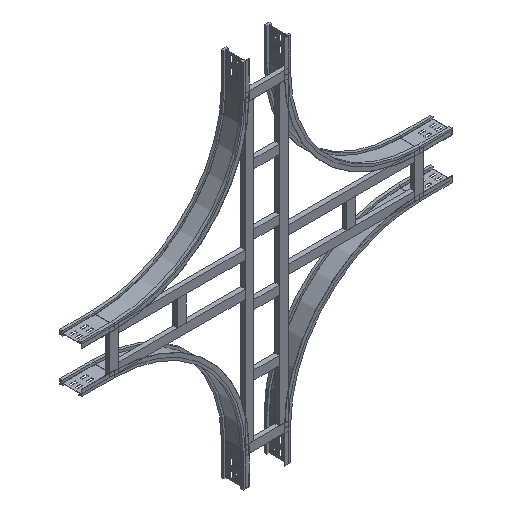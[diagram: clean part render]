
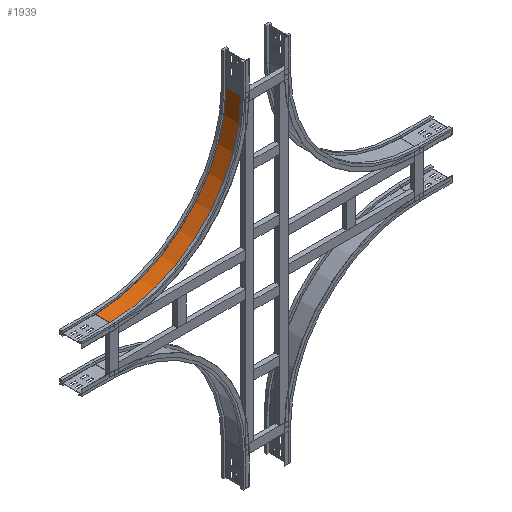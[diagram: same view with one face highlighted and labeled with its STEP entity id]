
A CAD part, isometric view. The second image highlights one B-rep face of the part: STEP entity #1939.
In plain terms, the highlighted cylindrical face has radius 600 mm (diameter 1200 mm), a partial arc.
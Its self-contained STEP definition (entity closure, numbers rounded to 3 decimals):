
#196 = EDGE_CURVE ( 'NONE', #1586, #690, #2395, .T. ) ;
#223 = VECTOR ( 'NONE', #2506, 1000. ) ;
#478 = CARTESIAN_POINT ( 'NONE',  ( 591., 12., -750. ) ) ;
#588 = CIRCLE ( 'NONE', #643, 600. ) ;
#643 = AXIS2_PLACEMENT_3D ( 'NONE', #1855, #1614, #2622 ) ;
#690 = VERTEX_POINT ( 'NONE', #3182 ) ;
#705 = FACE_OUTER_BOUND ( 'NONE', #3053, .T. ) ;
#988 = LINE ( 'NONE', #2806, #223 ) ;
#1080 = DIRECTION ( 'NONE',  ( -1., 0., 0. ) ) ;
#1099 = ORIENTED_EDGE ( 'NONE', *, *, #2791, .T. ) ;
#1239 = VERTEX_POINT ( 'NONE', #478 ) ;
#1313 = DIRECTION ( 'NONE',  ( 0., -1., 0. ) ) ;
#1422 = CARTESIAN_POINT ( 'NONE',  ( -9., 88., -150. ) ) ;
#1450 = AXIS2_PLACEMENT_3D ( 'NONE', #1549, #1313, #1080 ) ;
#1454 = DIRECTION ( 'NONE',  ( 0., 0., -1. ) ) ;
#1506 = AXIS2_PLACEMENT_3D ( 'NONE', #2921, #1931, #1454 ) ;
#1541 = EDGE_CURVE ( 'NONE', #1690, #1239, #588, .T. ) ;
#1549 = CARTESIAN_POINT ( 'NONE',  ( 591., 88., -150. ) ) ;
#1586 = VERTEX_POINT ( 'NONE', #1422 ) ;
#1614 = DIRECTION ( 'NONE',  ( 0., -1., 0. ) ) ;
#1675 = CYLINDRICAL_SURFACE ( 'NONE', #1506, 600. ) ;
#1677 = LINE ( 'NONE', #2694, #2996 ) ;
#1690 = VERTEX_POINT ( 'NONE', #2488 ) ;
#1855 = CARTESIAN_POINT ( 'NONE',  ( 591., 12., -150. ) ) ;
#1931 = DIRECTION ( 'NONE',  ( 0., -1., 0. ) ) ;
#1936 = DIRECTION ( 'NONE',  ( 0., 1., 0. ) ) ;
#1939 = ADVANCED_FACE ( 'NONE', ( #705 ), #1675, .F. ) ;
#1946 = ORIENTED_EDGE ( 'NONE', *, *, #1541, .T. ) ;
#2075 = EDGE_CURVE ( 'NONE', #1690, #1586, #988, .T. ) ;
#2395 = CIRCLE ( 'NONE', #1450, 600. ) ;
#2488 = CARTESIAN_POINT ( 'NONE',  ( -9., 12., -150. ) ) ;
#2506 = DIRECTION ( 'NONE',  ( 0., 1., 0. ) ) ;
#2622 = DIRECTION ( 'NONE',  ( -1., 0., 0. ) ) ;
#2694 = CARTESIAN_POINT ( 'NONE',  ( 591., 12., -750. ) ) ;
#2791 = EDGE_CURVE ( 'NONE', #1239, #690, #1677, .T. ) ;
#2806 = CARTESIAN_POINT ( 'NONE',  ( -9., 12., -150. ) ) ;
#2921 = CARTESIAN_POINT ( 'NONE',  ( 591., 0., -150. ) ) ;
#2996 = VECTOR ( 'NONE', #1936, 1000. ) ;
#3046 = ORIENTED_EDGE ( 'NONE', *, *, #2075, .F. ) ;
#3053 = EDGE_LOOP ( 'NONE', ( #3093, #3046, #1946, #1099 ) ) ;
#3093 = ORIENTED_EDGE ( 'NONE', *, *, #196, .F. ) ;
#3182 = CARTESIAN_POINT ( 'NONE',  ( 591., 88., -750. ) ) ;
